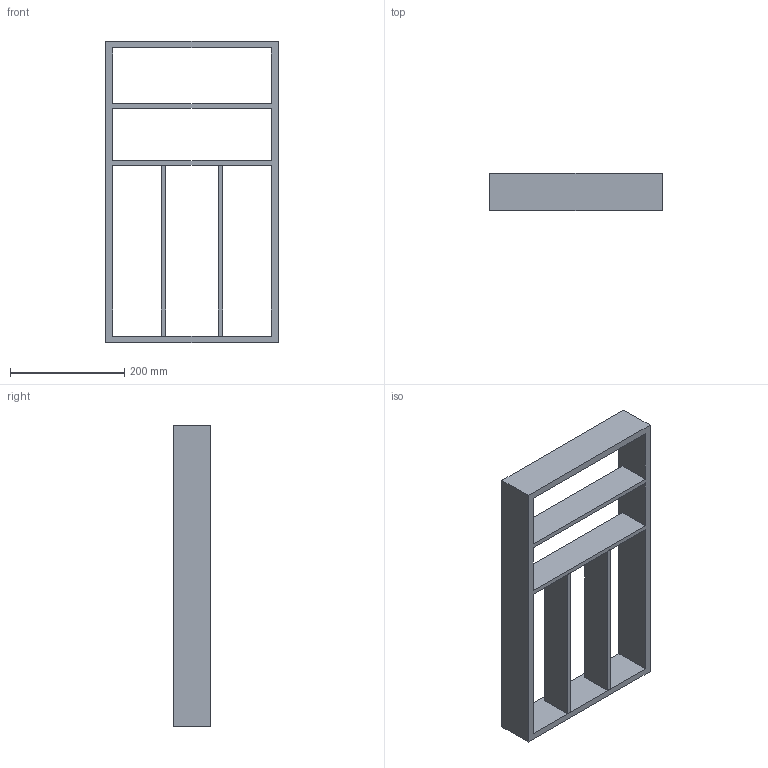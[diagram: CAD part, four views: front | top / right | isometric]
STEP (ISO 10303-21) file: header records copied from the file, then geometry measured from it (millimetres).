
FILE_DESCRIPTION (( 'STEP AP214' ), '1' );
FILE_NAME ('Vario Besteck NL550_B400_19 mm_Alu.step', '2010-11-04T08:33:15', ( 'grass' ), ( '' ), 'SwSTEP 2.0', 'SolidWorks 2010', '' );
FILE_SCHEMA (( 'AUTOMOTIVE_DESIGN' ));
Length unit declared in the file: millimetre
Products named in the file (1): Vario Besteck NL550_B400_19 mm_Alu
Bounding box: 302 x 65 x 529 mm (x, y, z)
Volume: 1785144 mm3; surface area: 398576 mm2
Topology: 3 solids, 3 shells, 28 faces, 72 edges, 48 vertices
Faces by surface type: plane 28
Entity records: 900 total; most frequent: CARTESIAN_POINT 149, ORIENTED_EDGE 144, DIRECTION 130, EDGE_CURVE 72, LINE 72, VECTOR 72, VERTEX_POINT 48, EDGE_LOOP 32
